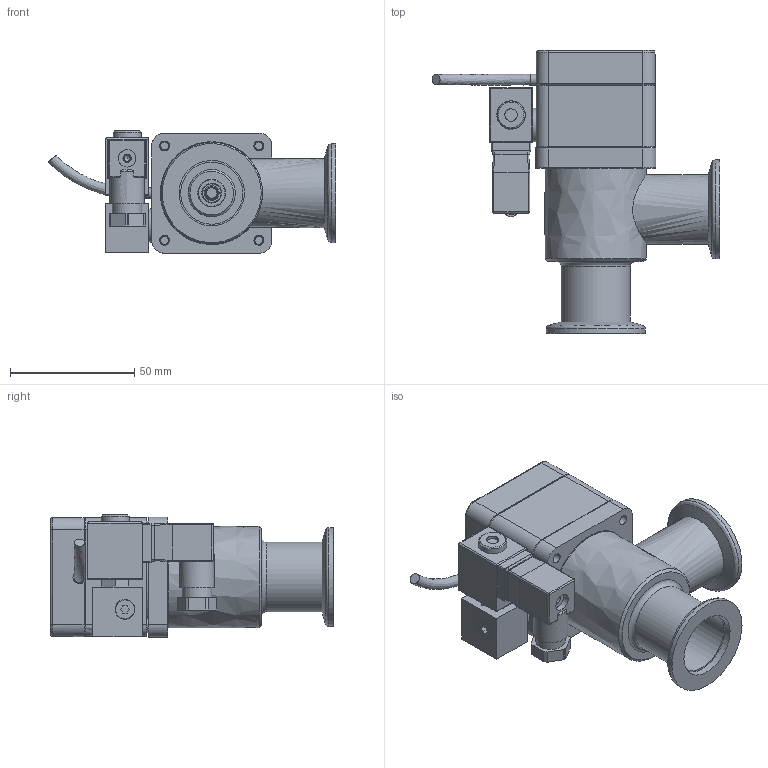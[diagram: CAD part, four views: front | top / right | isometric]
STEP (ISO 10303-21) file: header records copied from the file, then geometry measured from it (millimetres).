
FILE_DESCRIPTION((''),'2;1');
FILE_NAME('O:\MT\MT\Systeme\Cad\Datenexporte\www_vat_ch\247816.stp','2004-06-25T09:38:24',('User'),('SDRC'),'I-DEAS Master Series 9','UNIX','Yes');
FILE_SCHEMA(('CONFIG_CONTROL_DESIGN'));
Length unit declared in the file: millimetre
Assembly tree (18 placements, depth 0):
Bounding box: 115.88 x 114 x 49.3 mm (x, y, z)
Volume: 94389.4 mm3; surface area: 75312 mm2
Topology: 23 solids, 25 shells, 701 faces, 1685 edges, 1096 vertices
Faces by surface type: bspline 701
Entity records: 22633 total; most frequent: CARTESIAN_POINT 11501, ORIENTED_EDGE 3016, EDGE_CURVE 1508, VERTEX_POINT 969, EDGE_LOOP 731, FACE_OUTER_BOUND 626, ADVANCED_FACE 626, QUASI_UNIFORM_CURVE 574
